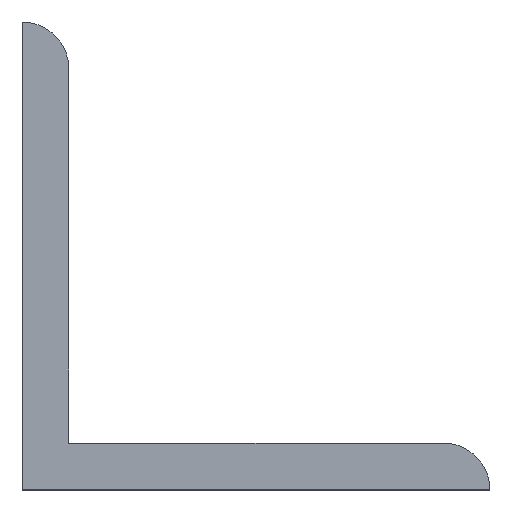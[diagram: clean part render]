
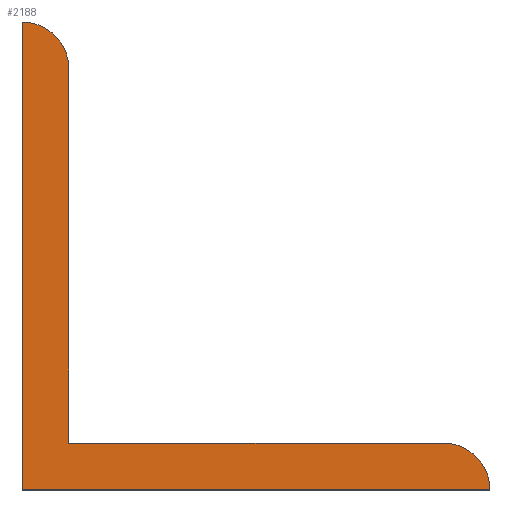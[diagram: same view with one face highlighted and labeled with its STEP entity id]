
A CAD part, top view. The second image highlights one B-rep face of the part: STEP entity #2188.
In plain terms, the highlighted planar face has unit normal (0, 0, 1).
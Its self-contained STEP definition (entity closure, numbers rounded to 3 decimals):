
#20 = VERTEX_POINT ( 'NONE', #851 ) ;
#43 = DIRECTION ( 'NONE',  ( 1., 0., 0. ) ) ;
#395 = DIRECTION ( 'NONE',  ( 0., 0., 1. ) ) ;
#411 = ORIENTED_EDGE ( 'NONE', *, *, #5128, .T. ) ;
#450 = FACE_OUTER_BOUND ( 'NONE', #575, .T. ) ;
#575 = EDGE_LOOP ( 'NONE', ( #1885, #6958, #2318, #5047, #5013, #411 ) ) ;
#581 = CARTESIAN_POINT ( 'NONE',  ( 0., 0., 5. ) ) ;
#678 = CARTESIAN_POINT ( 'NONE',  ( 0., 50., 5. ) ) ;
#681 = EDGE_CURVE ( 'NONE', #5565, #20, #4410, .T. ) ;
#803 = CARTESIAN_POINT ( 'NONE',  ( 50., 0., 5. ) ) ;
#851 = CARTESIAN_POINT ( 'NONE',  ( 5., 5., 5. ) ) ;
#1112 = EDGE_CURVE ( 'NONE', #20, #2247, #5749, .T. ) ;
#1159 = CARTESIAN_POINT ( 'NONE',  ( 0., 45., 5. ) ) ;
#1458 = VERTEX_POINT ( 'NONE', #678 ) ;
#1558 = PLANE ( 'NONE',  #6818 ) ;
#1573 = LINE ( 'NONE', #803, #5375 ) ;
#1661 = CARTESIAN_POINT ( 'NONE',  ( 45., 5., 5. ) ) ;
#1837 = DIRECTION ( 'NONE',  ( -1., 0., 0. ) ) ;
#1885 = ORIENTED_EDGE ( 'NONE', *, *, #2361, .T. ) ;
#2037 = DIRECTION ( 'NONE',  ( 0., 1., 0. ) ) ;
#2188 = ADVANCED_FACE ( 'NONE', ( #450 ), #1558, .F. ) ;
#2247 = VERTEX_POINT ( 'NONE', #4760 ) ;
#2318 = ORIENTED_EDGE ( 'NONE', *, *, #681, .T. ) ;
#2361 = EDGE_CURVE ( 'NONE', #6693, #6137, #1573, .T. ) ;
#2581 = DIRECTION ( 'NONE',  ( 0., 0., 1. ) ) ;
#2607 = DIRECTION ( 'NONE',  ( 0., -1., 0. ) ) ;
#2692 = VECTOR ( 'NONE', #2607, 1000. ) ;
#2774 = CARTESIAN_POINT ( 'NONE',  ( 5., 50., 5. ) ) ;
#2907 = DIRECTION ( 'NONE',  ( -1., 0., 0. ) ) ;
#3355 = CARTESIAN_POINT ( 'NONE',  ( 0., 0., 5. ) ) ;
#3562 = CIRCLE ( 'NONE', #3584, 5. ) ;
#3584 = AXIS2_PLACEMENT_3D ( 'NONE', #4070, #2581, #1837 ) ;
#3661 = CARTESIAN_POINT ( 'NONE',  ( 5., 5., 5. ) ) ;
#3771 = VECTOR ( 'NONE', #2907, 1000. ) ;
#4070 = CARTESIAN_POINT ( 'NONE',  ( 45., 0., 5. ) ) ;
#4095 = LINE ( 'NONE', #3355, #2692 ) ;
#4364 = DIRECTION ( 'NONE',  ( -1., 0., 0. ) ) ;
#4410 = LINE ( 'NONE', #3661, #3771 ) ;
#4760 = CARTESIAN_POINT ( 'NONE',  ( 5., 45., 5. ) ) ;
#4846 = EDGE_CURVE ( 'NONE', #6137, #5565, #3562, .T. ) ;
#5013 = ORIENTED_EDGE ( 'NONE', *, *, #6077, .T. ) ;
#5047 = ORIENTED_EDGE ( 'NONE', *, *, #1112, .T. ) ;
#5107 = DIRECTION ( 'NONE',  ( 0., 0., -1. ) ) ;
#5128 = EDGE_CURVE ( 'NONE', #1458, #6693, #4095, .T. ) ;
#5375 = VECTOR ( 'NONE', #43, 1000. ) ;
#5565 = VERTEX_POINT ( 'NONE', #1661 ) ;
#5632 = VECTOR ( 'NONE', #2037, 1000. ) ;
#5749 = LINE ( 'NONE', #2774, #5632 ) ;
#5825 = CIRCLE ( 'NONE', #6789, 5. ) ;
#5844 = CARTESIAN_POINT ( 'NONE',  ( 0., 0., 5. ) ) ;
#6077 = EDGE_CURVE ( 'NONE', #2247, #1458, #5825, .T. ) ;
#6137 = VERTEX_POINT ( 'NONE', #6749 ) ;
#6693 = VERTEX_POINT ( 'NONE', #581 ) ;
#6749 = CARTESIAN_POINT ( 'NONE',  ( 50., 0., 5. ) ) ;
#6789 = AXIS2_PLACEMENT_3D ( 'NONE', #1159, #395, #6911 ) ;
#6818 = AXIS2_PLACEMENT_3D ( 'NONE', #5844, #5107, #4364 ) ;
#6911 = DIRECTION ( 'NONE',  ( -1., 0., 0. ) ) ;
#6958 = ORIENTED_EDGE ( 'NONE', *, *, #4846, .T. ) ;
